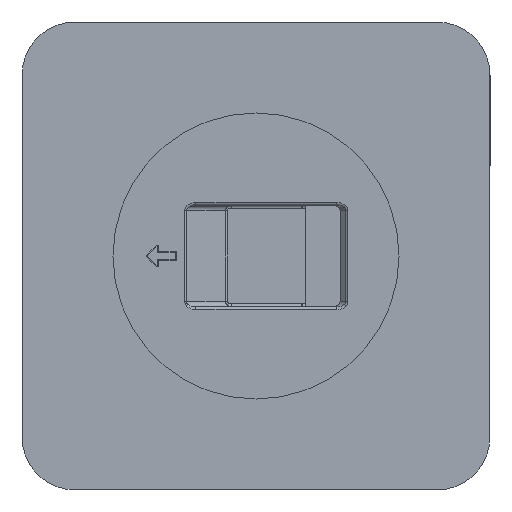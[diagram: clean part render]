
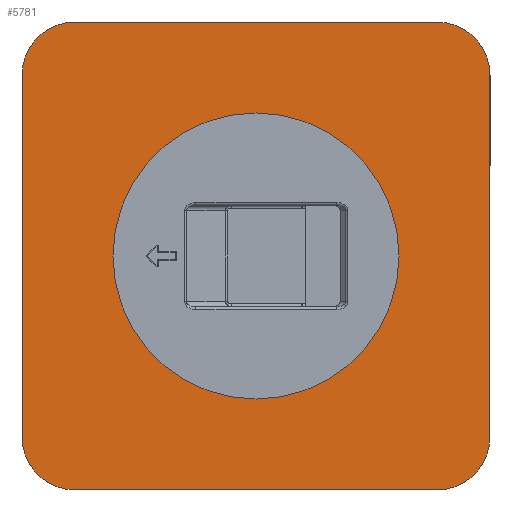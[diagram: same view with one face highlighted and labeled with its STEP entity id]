
A CAD part, front view. The second image highlights one B-rep face of the part: STEP entity #5781.
In plain terms, the highlighted planar face has unit normal (0, -1, 0).
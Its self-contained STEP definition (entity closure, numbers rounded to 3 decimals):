
#13 = CARTESIAN_POINT ( 'NONE',  ( -44., -0.5, -34. ) ) ;
#58 = DIRECTION ( 'NONE',  ( 1., 0., 0. ) ) ;
#75 = DIRECTION ( 'NONE',  ( 0., 1., 0. ) ) ;
#89 = CARTESIAN_POINT ( 'NONE',  ( 34., -0.5, 34. ) ) ;
#108 = CARTESIAN_POINT ( 'NONE',  ( -44., -0.5, 34. ) ) ;
#176 = CIRCLE ( 'NONE', #10203, 10. ) ;
#256 = ORIENTED_EDGE ( 'NONE', *, *, #4748, .F. ) ;
#336 = DIRECTION ( 'NONE',  ( 0., 0., 1. ) ) ;
#492 = VERTEX_POINT ( 'NONE', #7248 ) ;
#504 = ORIENTED_EDGE ( 'NONE', *, *, #6693, .T. ) ;
#680 = CARTESIAN_POINT ( 'NONE',  ( -34., -0.5, -34. ) ) ;
#693 = DIRECTION ( 'NONE',  ( 0., 1., 0. ) ) ;
#705 = DIRECTION ( 'NONE',  ( 1., 0., 0. ) ) ;
#875 = DIRECTION ( 'NONE',  ( 1., 0., 0. ) ) ;
#901 = DIRECTION ( 'NONE',  ( 0., -1., 0. ) ) ;
#916 = PLANE ( 'NONE',  #7174 ) ;
#983 = CARTESIAN_POINT ( 'NONE',  ( 34., -0.5, 34. ) ) ;
#1044 = ORIENTED_EDGE ( 'NONE', *, *, #2770, .F. ) ;
#1305 = AXIS2_PLACEMENT_3D ( 'NONE', #2290, #2260, #2219 ) ;
#1570 = LINE ( 'NONE', #5375, #4708 ) ;
#1691 = CIRCLE ( 'NONE', #7609, 10. ) ;
#1788 = EDGE_CURVE ( 'NONE', #3815, #4261, #176, .T. ) ;
#1869 = VERTEX_POINT ( 'NONE', #108 ) ;
#1886 = VERTEX_POINT ( 'NONE', #13 ) ;
#2205 = EDGE_CURVE ( 'NONE', #8813, #1886, #2503, .T. ) ;
#2218 = CARTESIAN_POINT ( 'NONE',  ( 44., -0.5, 34. ) ) ;
#2219 = DIRECTION ( 'NONE',  ( -1., 0., 0. ) ) ;
#2253 = EDGE_LOOP ( 'NONE', ( #504, #9791 ) ) ;
#2260 = DIRECTION ( 'NONE',  ( 0., 1., 0. ) ) ;
#2290 = CARTESIAN_POINT ( 'NONE',  ( 0., -0.5, 0. ) ) ;
#2503 = CIRCLE ( 'NONE', #10022, 10. ) ;
#2665 = VERTEX_POINT ( 'NONE', #3457 ) ;
#2770 = EDGE_CURVE ( 'NONE', #6319, #6202, #5043, .T. ) ;
#2975 = LINE ( 'NONE', #10563, #7256 ) ;
#3378 = EDGE_CURVE ( 'NONE', #6202, #8813, #1570, .T. ) ;
#3457 = CARTESIAN_POINT ( 'NONE',  ( -26.9, -0.5, 0. ) ) ;
#3625 = CARTESIAN_POINT ( 'NONE',  ( 44., -0.5, -34. ) ) ;
#3633 = LINE ( 'NONE', #9664, #3927 ) ;
#3775 = EDGE_CURVE ( 'NONE', #1886, #1869, #3633, .T. ) ;
#3815 = VERTEX_POINT ( 'NONE', #7140 ) ;
#3927 = VECTOR ( 'NONE', #336, 1000. ) ;
#4000 = VECTOR ( 'NONE', #4445, 1000. ) ;
#4261 = VERTEX_POINT ( 'NONE', #2218 ) ;
#4400 = CARTESIAN_POINT ( 'NONE',  ( 26.9, -0.5, 0. ) ) ;
#4445 = DIRECTION ( 'NONE',  ( 0., 0., -1. ) ) ;
#4708 = VECTOR ( 'NONE', #5387, 1000. ) ;
#4748 = EDGE_CURVE ( 'NONE', #492, #3815, #2975, .T. ) ;
#5024 = EDGE_CURVE ( 'NONE', #4261, #6319, #9029, .T. ) ;
#5043 = CIRCLE ( 'NONE', #9713, 10. ) ;
#5294 = EDGE_CURVE ( 'NONE', #1869, #492, #1691, .T. ) ;
#5375 = CARTESIAN_POINT ( 'NONE',  ( -34., -0.5, -44. ) ) ;
#5387 = DIRECTION ( 'NONE',  ( -1., 0., 0. ) ) ;
#5765 = CIRCLE ( 'NONE', #1305, 26.9 ) ;
#5781 = ADVANCED_FACE ( 'NONE', ( #10566, #5980 ), #916, .T. ) ;
#5980 = FACE_OUTER_BOUND ( 'NONE', #6257, .T. ) ;
#6012 = AXIS2_PLACEMENT_3D ( 'NONE', #9158, #9156, #9144 ) ;
#6202 = VERTEX_POINT ( 'NONE', #9118 ) ;
#6257 = EDGE_LOOP ( 'NONE', ( #7576, #10840, #1044, #6593, #9434, #256, #7027, #7414 ) ) ;
#6319 = VERTEX_POINT ( 'NONE', #6509 ) ;
#6509 = CARTESIAN_POINT ( 'NONE',  ( 44., -0.5, -34. ) ) ;
#6593 = ORIENTED_EDGE ( 'NONE', *, *, #5024, .F. ) ;
#6693 = EDGE_CURVE ( 'NONE', #2665, #7397, #10831, .T. ) ;
#7027 = ORIENTED_EDGE ( 'NONE', *, *, #5294, .F. ) ;
#7140 = CARTESIAN_POINT ( 'NONE',  ( 34., -0.5, 44. ) ) ;
#7174 = AXIS2_PLACEMENT_3D ( 'NONE', #983, #901, #875 ) ;
#7248 = CARTESIAN_POINT ( 'NONE',  ( -34., -0.5, 44. ) ) ;
#7256 = VECTOR ( 'NONE', #10429, 1000. ) ;
#7279 = CARTESIAN_POINT ( 'NONE',  ( -34., -0.5, -44. ) ) ;
#7397 = VERTEX_POINT ( 'NONE', #4400 ) ;
#7414 = ORIENTED_EDGE ( 'NONE', *, *, #3775, .F. ) ;
#7576 = ORIENTED_EDGE ( 'NONE', *, *, #2205, .F. ) ;
#7609 = AXIS2_PLACEMENT_3D ( 'NONE', #10939, #10905, #10895 ) ;
#7761 = CARTESIAN_POINT ( 'NONE',  ( 34., -0.5, -34. ) ) ;
#7773 = DIRECTION ( 'NONE',  ( 0., 1., 0. ) ) ;
#7787 = DIRECTION ( 'NONE',  ( 1., 0., 0. ) ) ;
#8813 = VERTEX_POINT ( 'NONE', #7279 ) ;
#9029 = LINE ( 'NONE', #3625, #4000 ) ;
#9118 = CARTESIAN_POINT ( 'NONE',  ( 34., -0.5, -44. ) ) ;
#9144 = DIRECTION ( 'NONE',  ( -1., 0., 0. ) ) ;
#9156 = DIRECTION ( 'NONE',  ( 0., 1., 0. ) ) ;
#9158 = CARTESIAN_POINT ( 'NONE',  ( 0., -0.5, 0. ) ) ;
#9434 = ORIENTED_EDGE ( 'NONE', *, *, #1788, .F. ) ;
#9664 = CARTESIAN_POINT ( 'NONE',  ( -44., -0.5, 34. ) ) ;
#9713 = AXIS2_PLACEMENT_3D ( 'NONE', #7761, #7773, #7787 ) ;
#9791 = ORIENTED_EDGE ( 'NONE', *, *, #10567, .T. ) ;
#10022 = AXIS2_PLACEMENT_3D ( 'NONE', #680, #693, #705 ) ;
#10203 = AXIS2_PLACEMENT_3D ( 'NONE', #89, #75, #58 ) ;
#10429 = DIRECTION ( 'NONE',  ( 1., 0., 0. ) ) ;
#10563 = CARTESIAN_POINT ( 'NONE',  ( 34., -0.5, 44. ) ) ;
#10566 = FACE_BOUND ( 'NONE', #2253, .T. ) ;
#10567 = EDGE_CURVE ( 'NONE', #7397, #2665, #5765, .T. ) ;
#10831 = CIRCLE ( 'NONE', #6012, 26.9 ) ;
#10840 = ORIENTED_EDGE ( 'NONE', *, *, #3378, .F. ) ;
#10895 = DIRECTION ( 'NONE',  ( 1., 0., 0. ) ) ;
#10905 = DIRECTION ( 'NONE',  ( 0., 1., 0. ) ) ;
#10939 = CARTESIAN_POINT ( 'NONE',  ( -34., -0.5, 34. ) ) ;
